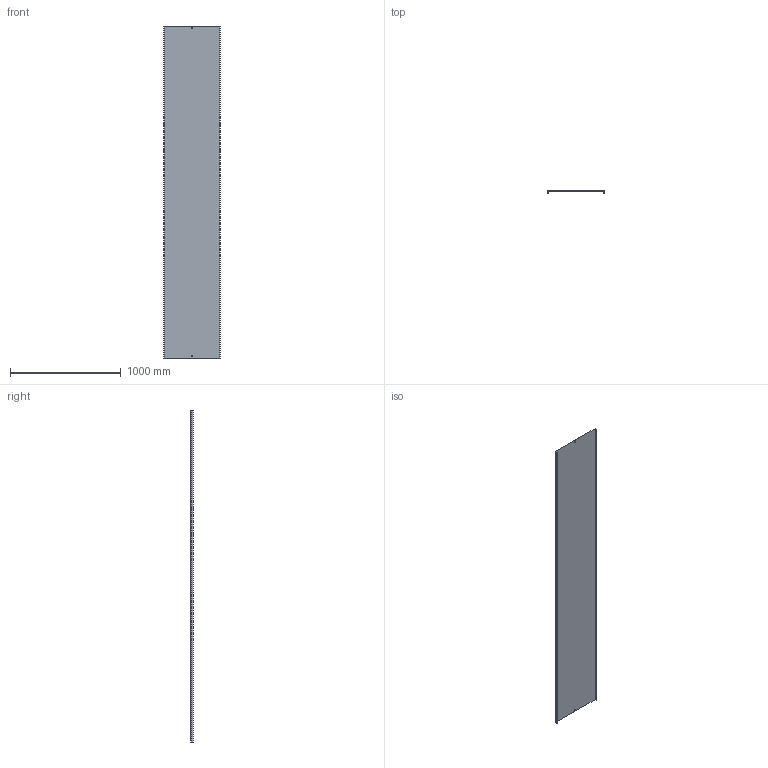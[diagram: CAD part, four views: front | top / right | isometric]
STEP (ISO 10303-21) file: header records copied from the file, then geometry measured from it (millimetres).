
FILE_DESCRIPTION (( 'STEP AP214' ), '1' );
FILE_NAME ('05N3R500.step', '2025-02-21T09:59:39', ( '' ), ( '' ), 'SwSTEP 2.0', 'SolidWorks 2023', '' );
FILE_SCHEMA (( 'AUTOMOTIVE_DESIGN' ));
Length unit declared in the file: millimetre
Products named in the file (1): 05N3R500
Bounding box: 507 x 20 x 3000 mm (x, y, z)
Volume: 2447824.5 mm3; surface area: 3274491 mm2
Topology: 1 solids, 1 shells, 18 faces, 48 edges, 32 vertices
Faces by surface type: plane 18
Entity records: 583 total; most frequent: CARTESIAN_POINT 99, ORIENTED_EDGE 96, DIRECTION 86, EDGE_CURVE 48, VECTOR 48, LINE 48, VERTEX_POINT 32, EDGE_LOOP 22
